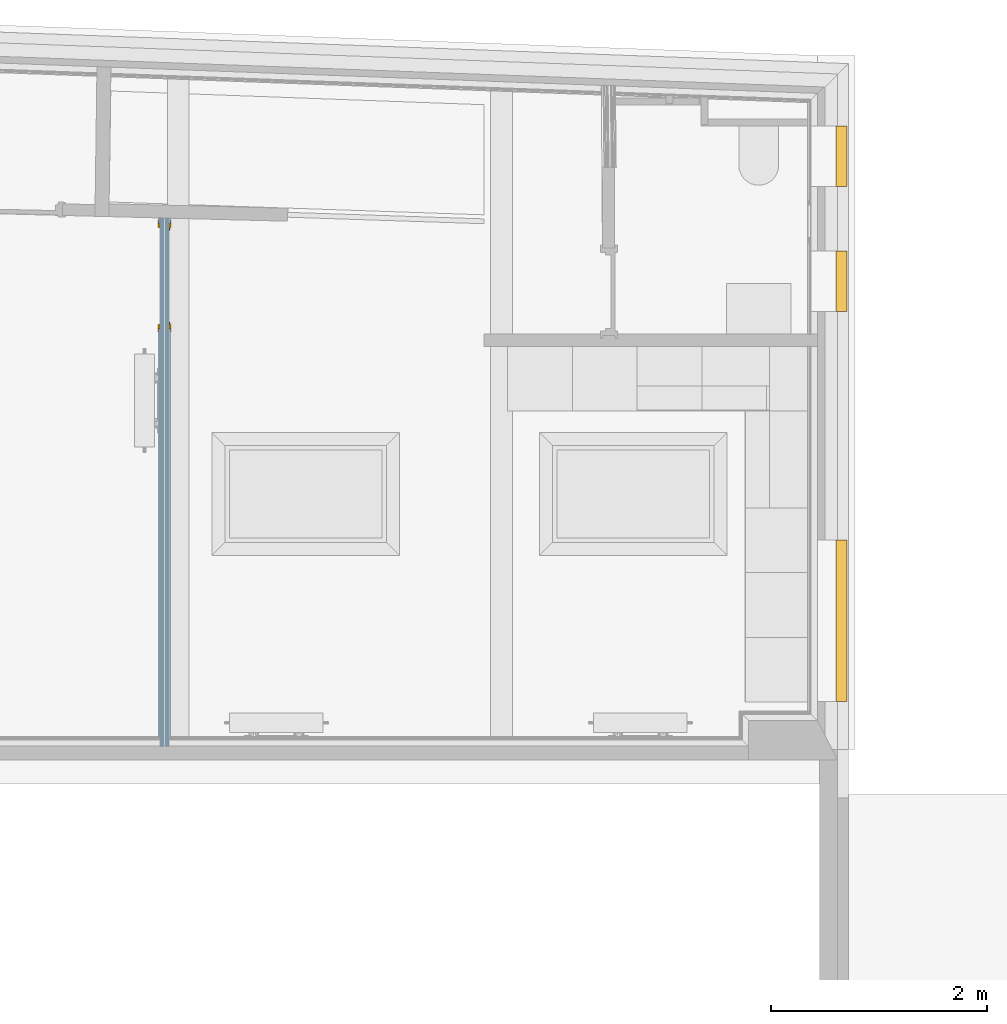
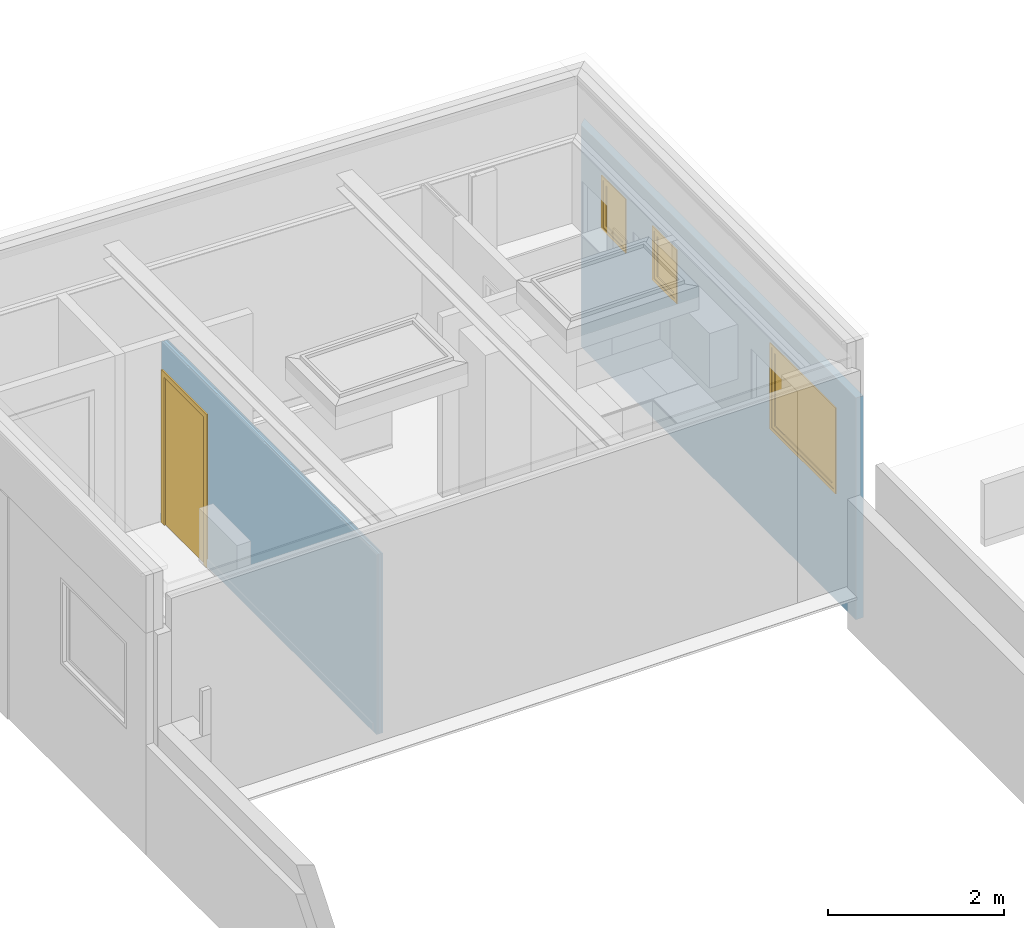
# One storey, part 10 of 22: 3 windows, 1 door, 4 openings, 1 element without a shape of its own, plus 8 elements that do not belong to this part.
"""IFC2X3 building model written with IfcOpenShell, lengths in metres."""

from ifc_helpers import new_model, entity, si_unit, converted_unit, derived_unit, money_unit, direction, frame, frame_2d, origin_with_axes, place, context, subcontext, project, spatial, polyline, rectangle, outline, extrude, faceted_brep, material, layer, layer_set, layer_usage, type_object, element, fill, aggregate, save


model = new_model("IFC2X3")

# Units and contexts
model_context = context("Model", 3, precision=1e-05, world=origin_with_axes(), true_north=direction((0.0, 1.0)))
body_context = subcontext(model_context, "Body", "Model", "MODEL_VIEW", scale=1.0)
ifc_project = project(units=[si_unit("LENGTHUNIT", "METRE"), si_unit("AREAUNIT", "SQUARE_METRE"), si_unit("VOLUMEUNIT", "CUBIC_METRE"), si_unit("ABSORBEDDOSEUNIT", "GRAY"), si_unit("AMOUNTOFSUBSTANCEUNIT", "MOLE"), si_unit("DOSEEQUIVALENTUNIT", "SIEVERT"), si_unit("ELECTRICCAPACITANCEUNIT", "FARAD"), si_unit("ELECTRICCHARGEUNIT", "COULOMB"), si_unit("ELECTRICCONDUCTANCEUNIT", "SIEMENS"), si_unit("ELECTRICCURRENTUNIT", "AMPERE"), si_unit("ELECTRICRESISTANCEUNIT", "OHM"), si_unit("ELECTRICVOLTAGEUNIT", "VOLT"), si_unit("ENERGYUNIT", "JOULE"), si_unit("FORCEUNIT", "NEWTON"), si_unit("FREQUENCYUNIT", "HERTZ"), si_unit("ILLUMINANCEUNIT", "LUX"), si_unit("INDUCTANCEUNIT", "HENRY"), si_unit("LUMINOUSFLUXUNIT", "LUMEN"), si_unit("LUMINOUSINTENSITYUNIT", "CANDELA"), si_unit("MAGNETICFLUXDENSITYUNIT", "TESLA"), si_unit("MAGNETICFLUXUNIT", "WEBER"), si_unit("MASSUNIT", "GRAM"), converted_unit("PLANEANGLEUNIT", "degree", entity("IfcReal", 0.0174532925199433), si_unit("PLANEANGLEUNIT", "RADIAN"), dimensions=[0, 0, 0, 0, 0, 0, 0]), si_unit("POWERUNIT", "WATT"), si_unit("PRESSUREUNIT", "PASCAL"), si_unit("RADIOACTIVITYUNIT", "BECQUEREL"), si_unit("SOLIDANGLEUNIT", "STERADIAN"), si_unit("THERMODYNAMICTEMPERATUREUNIT", "KELVIN"), si_unit("TIMEUNIT", "SECOND"), derived_unit("ACCELERATIONUNIT", [(si_unit("LENGTHUNIT", "METRE"), 1), (si_unit("TIMEUNIT", "SECOND"), -2)]), derived_unit("ANGULARVELOCITYUNIT", [(converted_unit("PLANEANGLEUNIT", "degree", entity("IfcReal", 0.0174532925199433), si_unit("PLANEANGLEUNIT", "RADIAN"), dimensions=[0, 0, 0, 0, 0, 0, 0]), 1), (si_unit("TIMEUNIT", "SECOND"), -1)]), derived_unit("CURVATUREUNIT", [(converted_unit("PLANEANGLEUNIT", "degree", entity("IfcReal", 0.0174532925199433), si_unit("PLANEANGLEUNIT", "RADIAN"), dimensions=[0, 0, 0, 0, 0, 0, 0]), 1), (si_unit("LENGTHUNIT", "METRE"), -1)]), derived_unit("DYNAMICVISCOSITYUNIT", [(si_unit("PRESSUREUNIT", "PASCAL"), 1), (si_unit("TIMEUNIT", "SECOND"), 1)]), derived_unit("HEATFLUXDENSITYUNIT", [(si_unit("POWERUNIT", "WATT"), 1), (si_unit("LENGTHUNIT", "METRE"), -2)]), derived_unit("HEATINGVALUEUNIT", [(si_unit("ENERGYUNIT", "JOULE"), 1), (si_unit("MASSUNIT", "GRAM"), -1)]), derived_unit("INTEGERCOUNTRATEUNIT", [(si_unit("TIMEUNIT", "SECOND"), -1)]), derived_unit("IONCONCENTRATIONUNIT", [(si_unit("MASSUNIT", "GRAM"), 1), (si_unit("VOLUMEUNIT", "CUBIC_METRE"), -1)]), derived_unit("ISOTHERMALMOISTURECAPACITYUNIT", [(si_unit("VOLUMEUNIT", "CUBIC_METRE"), 1), (si_unit("MASSUNIT", "GRAM"), -1)]), derived_unit("KINEMATICVISCOSITYUNIT", [(si_unit("AREAUNIT", "SQUARE_METRE"), 1), (si_unit("TIMEUNIT", "SECOND"), -1)]), derived_unit("LINEARFORCEUNIT", [(si_unit("FORCEUNIT", "NEWTON"), 1), (si_unit("LENGTHUNIT", "METRE"), -1)]), derived_unit("LINEARMOMENTUNIT", [(si_unit("FORCEUNIT", "NEWTON"), 1), (si_unit("LENGTHUNIT", "METRE"), -1)]), derived_unit("LINEARSTIFFNESSUNIT", [(si_unit("FORCEUNIT", "NEWTON"), 1), (si_unit("LENGTHUNIT", "METRE"), -1)]), derived_unit("LINEARVELOCITYUNIT", [(si_unit("LENGTHUNIT", "METRE"), 1), (si_unit("TIMEUNIT", "SECOND"), -1)]), derived_unit("LUMINOUSINTENSITYDISTRIBUTIONUNIT", [(si_unit("LUMINOUSINTENSITYUNIT", "CANDELA"), 1), (si_unit("LUMINOUSFLUXUNIT", "LUMEN"), -1)]), derived_unit("MASSDENSITYUNIT", [(si_unit("MASSUNIT", "GRAM"), 1), (si_unit("VOLUMEUNIT", "CUBIC_METRE"), -1)]), derived_unit("MASSFLOWRATEUNIT", [(si_unit("MASSUNIT", "GRAM"), 1), (si_unit("TIMEUNIT", "SECOND"), -1)]), derived_unit("MASSPERLENGTHUNIT", [(si_unit("MASSUNIT", "GRAM"), 1), (si_unit("LENGTHUNIT", "METRE"), -1)]), derived_unit("MODULUSOFELASTICITYUNIT", [(si_unit("FORCEUNIT", "NEWTON"), 1), (si_unit("AREAUNIT", "SQUARE_METRE"), -1)]), derived_unit("MODULUSOFLINEARSUBGRADEREACTIONUNIT", [(si_unit("FORCEUNIT", "NEWTON"), 1), (si_unit("LENGTHUNIT", "METRE"), -2)]), derived_unit("MODULUSOFROTATIONALSUBGRADEREACTIONUNIT", [(si_unit("FORCEUNIT", "NEWTON"), 1), (si_unit("LENGTHUNIT", "METRE"), 1)]), derived_unit("MODULUSOFSUBGRADEREACTIONUNIT", [(si_unit("FORCEUNIT", "NEWTON"), 1), (si_unit("VOLUMEUNIT", "CUBIC_METRE"), -1)]), derived_unit("MOISTUREDIFFUSIVITYUNIT", [(si_unit("VOLUMEUNIT", "CUBIC_METRE"), 1), (si_unit("TIMEUNIT", "SECOND"), -1)]), derived_unit("MOLECULARWEIGHTUNIT", [(si_unit("MASSUNIT", "GRAM"), 1), (si_unit("AMOUNTOFSUBSTANCEUNIT", "MOLE"), -1)]), derived_unit("PLANARFORCEUNIT", [(si_unit("FORCEUNIT", "NEWTON"), 1), (si_unit("LENGTHUNIT", "METRE"), -2)]), derived_unit("ROTATIONALFREQUENCYUNIT", [(si_unit("TIMEUNIT", "SECOND"), -1)]), derived_unit("ROTATIONALMASSUNIT", [(si_unit("MASSUNIT", "GRAM"), 1), (si_unit("LENGTHUNIT", "METRE"), 2)]), derived_unit("ROTATIONALSTIFFNESSUNIT", [(si_unit("FORCEUNIT", "NEWTON"), 1), (si_unit("LENGTHUNIT", "METRE"), 1), (converted_unit("PLANEANGLEUNIT", "degree", entity("IfcReal", 0.0174532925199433), si_unit("PLANEANGLEUNIT", "RADIAN"), dimensions=[0, 0, 0, 0, 0, 0, 0]), -1)]), derived_unit("SECTIONAREAINTEGRALUNIT", [(si_unit("LENGTHUNIT", "METRE"), 5)]), derived_unit("SECTIONMODULUSUNIT", [(si_unit("LENGTHUNIT", "METRE"), 3)]), derived_unit("SHEARMODULUSUNIT", [(si_unit("FORCEUNIT", "NEWTON"), 1), (si_unit("AREAUNIT", "SQUARE_METRE"), -1)]), derived_unit("SOUNDPOWERUNIT", [(si_unit("ENERGYUNIT", "JOULE"), 1), (si_unit("TIMEUNIT", "SECOND"), -1)]), derived_unit("SPECIFICHEATCAPACITYUNIT", [(si_unit("FORCEUNIT", "NEWTON"), 1), (si_unit("MASSUNIT", "GRAM"), -1), (si_unit("THERMODYNAMICTEMPERATUREUNIT", "KELVIN"), -1)]), derived_unit("TEMPERATUREGRADIENTUNIT", [(si_unit("THERMODYNAMICTEMPERATUREUNIT", "KELVIN"), 1), (si_unit("LENGTHUNIT", "METRE"), -1)]), derived_unit("THERMALADMITTANCEUNIT", [(si_unit("POWERUNIT", "WATT"), 1), (si_unit("AREAUNIT", "SQUARE_METRE"), -1), (si_unit("THERMODYNAMICTEMPERATUREUNIT", "KELVIN"), -1)]), derived_unit("THERMALCONDUCTANCEUNIT", [(si_unit("POWERUNIT", "WATT"), 1), (si_unit("LENGTHUNIT", "METRE"), -1), (si_unit("THERMODYNAMICTEMPERATUREUNIT", "KELVIN"), -1)]), derived_unit("THERMALEXPANSIONCOEFFICIENTUNIT", [(si_unit("THERMODYNAMICTEMPERATUREUNIT", "KELVIN"), -1)]), derived_unit("THERMALRESISTANCEUNIT", [(si_unit("AREAUNIT", "SQUARE_METRE"), 1), (si_unit("POWERUNIT", "WATT"), -1)]), derived_unit("THERMALTRANSMITTANCEUNIT", [(si_unit("POWERUNIT", "WATT"), 1), (si_unit("AREAUNIT", "SQUARE_METRE"), -1), (si_unit("THERMODYNAMICTEMPERATUREUNIT", "KELVIN"), -1)]), derived_unit("TORQUEUNIT", [(si_unit("FORCEUNIT", "NEWTON"), 1), (si_unit("LENGTHUNIT", "METRE"), 1)]), derived_unit("VAPORPERMEABILITYUNIT", [(si_unit("MASSUNIT", "GRAM"), 1), (si_unit("TIMEUNIT", "SECOND"), -1)]), derived_unit("VOLUMETRICFLOWRATEUNIT", [(si_unit("VOLUMEUNIT", "CUBIC_METRE"), 1), (si_unit("TIMEUNIT", "SECOND"), -1)]), derived_unit("WARPINGCONSTANTUNIT", [(si_unit("LENGTHUNIT", "METRE"), 6)]), derived_unit("WARPINGMOMENTUNIT", [(si_unit("FORCEUNIT", "NEWTON"), 1), (si_unit("LENGTHUNIT", "METRE"), 2)]), money_unit("GBP")], contexts=[model_context])

# Site, building, storey
site_placement = place(None, origin_with_axes())
site = spatial("IfcSite", under=ifc_project, at=site_placement, Name="Site", CompositionType="ELEMENT")
building_placement = place(site_placement, origin_with_axes())
building = spatial("IfcBuilding", under=site, at=building_placement, Name="Building01", CompositionType="ELEMENT")
storey_placement = place(building_placement, frame((0.0, 0.0, 2.6), z_axis=(0.0, 0.0, 1.0), x_axis=(1.0, 0.0, 0.0)))
storey = spatial("IfcBuildingStorey", under=building, at=storey_placement, Name="MF", CompositionType="ELEMENT", Elevation=2.6)

# Wall, openings
ifc_material_1 = material(Name="A_BSUK_WallsExternal_Brick")
ifc_layer = layer(ifc_material_1, 0.1, ventilated=False)
ifc_layer_set = layer_set([ifc_layer])
ifc_layer_usage = layer_usage(ifc_layer_set, "AXIS2", "POSITIVE", 0.0)
wall_type_1 = type_object("IfcWallType", Name="A-Walls-ExternalBrick", PredefinedType="NOTDEFINED")
wall_1_placement = place(storey_placement, frame((9.343038, 21.166066, 0.0), z_axis=(0.0, 0.0, 1.0), x_axis=(0.0, -1.0, 0.0)))
wall_1 = element("IfcWallStandardCase", 1, at=wall_1_placement, inside=storey, type_object=wall_type_1, material=ifc_layer_usage, Name="A-Walls-ExternalBrick", ObjectType="A-Walls-ExternalBrick", context=body_context, shape_type="SweptSolid", body=[
    extrude(outline(polyline([(6.265024, 0.1), (-0.096359, 0.1), (0.0, 0.0), (6.265024, 0.0), (6.265024, 0.1)])), origin_with_axes(), (0.0, 0.0, 1.0), 3.085),
])
opening_1_placement = place(wall_1_placement, frame((4.323276, 0.0, 1.485), z_axis=(0.0, 0.0, 1.0), x_axis=(1.0, 0.0, 0.0)))
opening_1 = element("IfcOpeningElement", 2, at=opening_1_placement, cuts=wall_1, Name="Opening", ObjectType="Opening", context=body_context, shape_type="SweptSolid", body=[
    extrude(rectangle(XDim=1.2, YDim=1.5, at=frame_2d((-0.75, 0.6), x_axis=(0.0, -1.0))), frame((0.0, 0.0, 0.0), z_axis=(0.0, 1.0, 0.0), x_axis=(-1.0, 0.0, 0.0)), (0.0, 0.0, 1.0), 0.1),
])
opening_2_placement = place(wall_1_placement, frame((1.643772, 0.0, 1.935), z_axis=(0.0, 0.0, 1.0), x_axis=(1.0, 0.0, 0.0)))
opening_2 = element("IfcOpeningElement", 3, at=opening_2_placement, cuts=wall_1, Name="Opening", ObjectType="Opening", context=body_context, shape_type="SweptSolid", body=[
    extrude(rectangle(XDim=0.75, YDim=0.56, at=frame_2d((-0.28, 0.375), x_axis=(0.0, -1.0))), frame((0.0, 0.0, 0.0), z_axis=(0.0, 1.0, 0.0), x_axis=(-1.0, 0.0, 0.0)), (0.0, 0.0, 1.0), 0.1),
])
opening_3_placement = place(wall_1_placement, frame((0.482163, 0.0, 1.935), z_axis=(0.0, 0.0, 1.0), x_axis=(1.0, 0.0, 0.0)))
opening_3 = element("IfcOpeningElement", 4, at=opening_3_placement, cuts=wall_1, Name="Opening", ObjectType="Opening", context=body_context, shape_type="SweptSolid", body=[
    extrude(rectangle(XDim=0.75, YDim=0.56, at=frame_2d((-0.28, 0.375), x_axis=(0.0, -1.0))), frame((0.0, 0.0, 0.0), z_axis=(0.0, 1.0, 0.0), x_axis=(-1.0, 0.0, 0.0)), (0.0, 0.0, 1.0), 0.1),
])

# Space
space_placement = place(storey_placement, frame((0.352897, 21.240404, 0.585), z_axis=(0.0, 0.0, 1.0), x_axis=(-1.921e-05, -1.0, 0.0)))
space = spatial("IfcSpace", under=storey, at=space_placement, Name="01", CompositionType="ELEMENT", InteriorOrExteriorSpace="NOTDEFINED")

# Window
ifc_material_2 = material(Name="A_BSUK_Windows")
window_style = type_object("IfcWindowStyle", Name="A-Awning", ConstructionType="NOTDEFINED", OperationType="USERDEFINED", ParameterTakesPrecedence=False, Sizeable=False)
window_1_placement = place(opening_1_placement, frame((1.5, -0.038773, 0.0), z_axis=(0.0, 0.0, 1.0), x_axis=(1.0, 0.0, 0.0)))
window_1 = element("IfcWindow", 5, at=window_1_placement, inside=space, type_object=window_style, material=ifc_material_2, Name="0.21", ObjectType="A-Awning", OverallHeight=1.2, OverallWidth=1.5, context=body_context, shape_type="Brep", body=[
    faceted_brep([(-1.458, 0.0254, 0.042), (-0.042, 0.0254, 0.042), (-0.042, 0.1254, 0.042), (-1.458, 0.1254, 0.042), (-1.458, 0.0254, 1.158), (-1.458, 0.1254, 1.158), (-0.042, 0.0254, 1.158), (-0.042, 0.1254, 1.158), (0.0, 0.0254, 0.0), (0.0, 0.0254, 1.2), (-1.5, 0.0254, 1.2), (-1.5, 0.0254, 0.0), (0.0, 0.1254, 1.2), (-1.5, 0.1254, 1.2), (-1.5, 0.1254, 0.0), (0.0, 0.1254, 0.0)], [[[0, 1, 2, 3]], [[4, 0, 3, 5]], [[6, 4, 5, 7]], [[8, 9, 10, 11], [4, 6, 1, 0]], [[1, 6, 7, 2]], [[12, 13, 10, 9]], [[14, 15, 8, 11]], [[13, 14, 11, 10]], [[13, 12, 15, 14], [2, 7, 5, 3]], [[15, 12, 9, 8]]]),
    faceted_brep([(-1.4072, 0.0354, 0.0928), (-0.0928, 0.0354, 0.0928), (-0.0928, 0.0704, 0.0928), (-1.4072, 0.0704, 0.0928), (-1.4072, 0.0354, 1.1072), (-1.4072, 0.0704, 1.1072), (-0.0928, 0.0354, 1.1072), (-0.0928, 0.0704, 1.1072), (-1.458, 0.0704, 1.158), (-0.042, 0.0704, 1.158), (-0.042, 0.0704, 0.042), (-1.458, 0.0704, 0.042), (-1.458, 0.0354, 1.158), (-0.042, 0.0354, 1.158), (-0.042, 0.0354, 0.042), (-1.458, 0.0354, 0.042)], [[[0, 1, 2, 3]], [[4, 0, 3, 5]], [[6, 4, 5, 7]], [[8, 9, 10, 11], [2, 7, 5, 3]], [[9, 8, 12, 13]], [[10, 9, 13, 14]], [[11, 10, 14, 15]], [[8, 11, 15, 12]], [[14, 13, 12, 15], [4, 6, 1, 0]], [[1, 6, 7, 2]]]),
    faceted_brep([(-0.0928, 0.049725, 0.0928), (-0.0928, 0.056075, 0.0928), (-0.0928, 0.056075, 1.1072), (-0.0928, 0.049725, 1.1072), (-1.4072, 0.049725, 1.1072), (-1.4072, 0.056075, 1.1072), (-1.4072, 0.056075, 0.0928), (-1.4072, 0.049725, 0.0928)], [[[0, 1, 2, 3]], [[4, 5, 6, 7]], [[3, 2, 5, 4]], [[3, 4, 7, 0]], [[7, 6, 1, 0]], [[1, 6, 5, 2]]]),
])

fill(opening_1, window_1)

window_2_placement = place(opening_2_placement, frame((0.56, -0.038773, 0.0), z_axis=(0.0, 0.0, 1.0), x_axis=(1.0, 0.0, 0.0)))
window_2 = element("IfcWindow", 6, at=window_2_placement, inside=space, type_object=window_style, material=ifc_material_2, Name="0.22", ObjectType="A-Awning", OverallHeight=0.750000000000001, OverallWidth=0.56, context=body_context, shape_type="Brep", body=[
    faceted_brep([(-0.518, 0.0254, 0.042), (-0.042, 0.0254, 0.042), (-0.042, 0.1254, 0.042), (-0.518, 0.1254, 0.042), (-0.518, 0.0254, 0.708), (-0.518, 0.1254, 0.708), (-0.042, 0.0254, 0.708), (-0.042, 0.1254, 0.708), (0.0, 0.0254, 0.0), (0.0, 0.0254, 0.75), (-0.56, 0.0254, 0.75), (-0.56, 0.0254, 0.0), (0.0, 0.1254, 0.75), (-0.56, 0.1254, 0.75), (-0.56, 0.1254, 0.0), (0.0, 0.1254, 0.0)], [[[0, 1, 2, 3]], [[4, 0, 3, 5]], [[6, 4, 5, 7]], [[8, 9, 10, 11], [4, 6, 1, 0]], [[1, 6, 7, 2]], [[12, 13, 10, 9]], [[14, 15, 8, 11]], [[13, 14, 11, 10]], [[13, 12, 15, 14], [2, 7, 5, 3]], [[15, 12, 9, 8]]]),
    faceted_brep([(-0.4672, 0.0354, 0.0928), (-0.0928, 0.0354, 0.0928), (-0.0928, 0.0704, 0.0928), (-0.4672, 0.0704, 0.0928), (-0.4672, 0.0354, 0.6572), (-0.4672, 0.0704, 0.6572), (-0.0928, 0.0354, 0.6572), (-0.0928, 0.0704, 0.6572), (-0.518, 0.0704, 0.708), (-0.042, 0.0704, 0.708), (-0.042, 0.0704, 0.042), (-0.518, 0.0704, 0.042), (-0.518, 0.0354, 0.708), (-0.042, 0.0354, 0.708), (-0.042, 0.0354, 0.042), (-0.518, 0.0354, 0.042)], [[[0, 1, 2, 3]], [[4, 0, 3, 5]], [[6, 4, 5, 7]], [[8, 9, 10, 11], [2, 7, 5, 3]], [[9, 8, 12, 13]], [[10, 9, 13, 14]], [[11, 10, 14, 15]], [[8, 11, 15, 12]], [[14, 13, 12, 15], [4, 6, 1, 0]], [[1, 6, 7, 2]]]),
    faceted_brep([(-0.0928, 0.049725, 0.0928), (-0.0928, 0.056075, 0.0928), (-0.0928, 0.056075, 0.6572), (-0.0928, 0.049725, 0.6572), (-0.4672, 0.049725, 0.6572), (-0.4672, 0.056075, 0.6572), (-0.4672, 0.056075, 0.0928), (-0.4672, 0.049725, 0.0928)], [[[0, 1, 2, 3]], [[4, 5, 6, 7]], [[3, 2, 5, 4]], [[3, 4, 7, 0]], [[7, 6, 1, 0]], [[1, 6, 5, 2]]]),
])

fill(opening_2, window_2)

window_3_placement = place(opening_3_placement, frame((0.56, -0.038773, 0.0), z_axis=(0.0, 0.0, 1.0), x_axis=(1.0, 0.0, 0.0)))
window_3 = element("IfcWindow", 7, at=window_3_placement, inside=space, type_object=window_style, material=ifc_material_2, Name="0.23", ObjectType="A-Awning", OverallHeight=0.750000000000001, OverallWidth=0.56, context=body_context, shape_type="Brep", body=[
    faceted_brep([(-0.518, 0.0254, 0.042), (-0.042, 0.0254, 0.042), (-0.042, 0.1254, 0.042), (-0.518, 0.1254, 0.042), (-0.518, 0.0254, 0.708), (-0.518, 0.1254, 0.708), (-0.042, 0.0254, 0.708), (-0.042, 0.1254, 0.708), (0.0, 0.0254, 0.0), (0.0, 0.0254, 0.75), (-0.56, 0.0254, 0.75), (-0.56, 0.0254, 0.0), (0.0, 0.1254, 0.75), (-0.56, 0.1254, 0.75), (-0.56, 0.1254, 0.0), (0.0, 0.1254, 0.0)], [[[0, 1, 2, 3]], [[4, 0, 3, 5]], [[6, 4, 5, 7]], [[8, 9, 10, 11], [4, 6, 1, 0]], [[1, 6, 7, 2]], [[12, 13, 10, 9]], [[14, 15, 8, 11]], [[13, 14, 11, 10]], [[13, 12, 15, 14], [2, 7, 5, 3]], [[15, 12, 9, 8]]]),
    faceted_brep([(-0.4672, 0.0354, 0.0928), (-0.0928, 0.0354, 0.0928), (-0.0928, 0.0704, 0.0928), (-0.4672, 0.0704, 0.0928), (-0.4672, 0.0354, 0.6572), (-0.4672, 0.0704, 0.6572), (-0.0928, 0.0354, 0.6572), (-0.0928, 0.0704, 0.6572), (-0.518, 0.0704, 0.708), (-0.042, 0.0704, 0.708), (-0.042, 0.0704, 0.042), (-0.518, 0.0704, 0.042), (-0.518, 0.0354, 0.708), (-0.042, 0.0354, 0.708), (-0.042, 0.0354, 0.042), (-0.518, 0.0354, 0.042)], [[[0, 1, 2, 3]], [[4, 0, 3, 5]], [[6, 4, 5, 7]], [[8, 9, 10, 11], [2, 7, 5, 3]], [[9, 8, 12, 13]], [[10, 9, 13, 14]], [[11, 10, 14, 15]], [[8, 11, 15, 12]], [[14, 13, 12, 15], [4, 6, 1, 0]], [[1, 6, 7, 2]]]),
    faceted_brep([(-0.0928, 0.049725, 0.0928), (-0.0928, 0.056075, 0.0928), (-0.0928, 0.056075, 0.6572), (-0.0928, 0.049725, 0.6572), (-0.4672, 0.049725, 0.6572), (-0.4672, 0.056075, 0.6572), (-0.4672, 0.056075, 0.0928), (-0.4672, 0.049725, 0.0928)], [[[0, 1, 2, 3]], [[4, 5, 6, 7]], [[3, 2, 5, 4]], [[3, 4, 7, 0]], [[7, 6, 1, 0]], [[1, 6, 5, 2]]]),
])

fill(opening_3, window_3)

# Door
ifc_material_3 = material(Name="A_BSUK_Doors")
door_style = type_object("IfcDoorStyle", Name="A-Doors-SingleFlush", ConstructionType="USERDEFINED", OperationType="SINGLE_SWING_RIGHT", ParameterTakesPrecedence=False, Sizeable=False)
wall_2_placement = place(storey_placement, frame((3.110414, 14.93, 0.585), z_axis=(0.0, 0.0, 1.0), x_axis=(0.0, 1.0, 0.0)))
opening_4_placement = place(wall_2_placement, frame((3.868347, -0.042, 0.0), z_axis=(0.0, 0.0, 1.0), x_axis=(1.0, 0.0, 0.0)))
door_placement = place(opening_4_placement, frame((0.042, 0.095, 0.0), z_axis=(0.0, 0.0, 1.0), x_axis=(1.0, 0.0, 0.0)))
door = element("IfcDoor", 8, at=door_placement, inside=space, type_object=door_style, material=ifc_material_3, Name="0.22", ObjectType="A-Doors-SingleFlush", OverallHeight=2.10000000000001, OverallWidth=0.984000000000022, context=body_context, shape_type="Brep", body=[
    faceted_brep([(0.9, -0.099, 0.0), (0.969, -0.099, 0.0), (0.969, -0.099, 2.127), (-0.069, -0.099, 2.127), (-0.069, -0.099, 0.0), (0.0, -0.099, 0.0), (0.0, -0.099, 2.058), (0.9, -0.099, 2.058), (-0.069, -0.08, 0.0), (-0.069, -0.08, 2.127), (0.969, -0.08, 2.127), (0.969, -0.08, 0.0), (0.9, 0.019, 0.0), (0.969, 0.019, 0.0), (0.969, 0.0, 0.0), (0.942, 0.0, 0.0), (0.942, -0.08, 0.0), (0.9, 0.019, 2.058), (0.0, 0.019, 2.058), (0.0, 0.019, 0.0), (-0.069, 0.019, 0.0), (-0.069, 0.019, 2.127), (0.969, 0.019, 2.127), (0.969, 0.0, 2.127), (0.942, -0.08, 2.1), (0.942, 0.0, 2.1), (-0.042, -0.08, 2.1), (-0.042, 0.0, 2.1), (-0.042, -0.08, 0.0), (-0.042, 0.0, 0.0), (-0.069, 0.0, 2.127), (-0.069, 0.0, 0.0)], [[[0, 1, 2, 3, 4, 5, 6, 7]], [[8, 4, 3, 9]], [[10, 2, 1, 11]], [[9, 3, 2, 10]], [[12, 13, 14, 15, 16, 11, 1, 0]], [[7, 17, 12, 0]], [[6, 18, 17, 7]], [[18, 19, 20, 21, 22, 13, 12, 17]], [[5, 19, 18, 6]], [[13, 22, 23, 14]], [[24, 16, 15, 25]], [[26, 24, 25, 27]], [[11, 16, 24, 26, 28, 8, 9, 10]], [[27, 29, 28, 26]], [[25, 15, 14, 23, 30, 31, 29, 27]], [[5, 4, 8, 28, 29, 31, 20, 19]], [[30, 21, 20, 31]], [[23, 22, 21, 30]]]),
    faceted_brep([(0.0, -0.09, 2.058), (0.0, -0.04, 2.058), (0.0, -0.04, 0.0), (0.0, -0.09, 0.0), (0.875, -0.09, 0.0), (0.9, -0.09, 0.0), (0.9, -0.09, 2.058), (0.025, -0.09, 0.0), (0.025, -0.09, 2.033), (0.875, -0.09, 2.033), (0.875, -0.04, 0.0), (0.9, -0.04, 0.0), (0.9, -0.04, 2.058), (0.025, -0.04, 2.033), (0.025, -0.04, 0.0), (0.875, -0.04, 2.033)], [[[0, 1, 2, 3]], [[4, 5, 6, 0, 3, 7, 8, 9]], [[10, 11, 5, 4]], [[6, 12, 1, 0]], [[5, 11, 12, 6]], [[13, 14, 2, 1, 12, 11, 10, 15]], [[7, 14, 13, 8]], [[7, 3, 2, 14]], [[9, 15, 10, 4]], [[8, 13, 15, 9]]]),
    faceted_brep([(0.9, -0.04, 0.0), (0.9, 0.0, 0.0), (0.9, 0.0, 2.058), (0.9, -0.04, 2.058), (0.0, -0.04, 2.058), (0.0, 0.0, 2.058), (0.0, 0.0, 0.0), (0.0, -0.04, 0.0)], [[[0, 1, 2, 3]], [[4, 5, 6, 7]], [[7, 6, 1, 0]], [[3, 4, 7, 0]], [[3, 2, 5, 4]], [[1, 6, 5, 2]]]),
])

# Wall, opening
wall_type_2 = type_object("IfcWallType", Name="SHE_A-Walls_Type05b_Partition_80mm", PredefinedType="NOTDEFINED")
wall_2 = element("IfcWall", 9, at=wall_2_placement, inside=storey, type_object=wall_type_2, Name="5B", ObjectType="SHE_A-Walls_Type05b_Partition_80mm")
opening_4 = element("IfcOpeningElement", 10, at=opening_4_placement, cuts=wall_2, Name="Opening", ObjectType="Opening", context=body_context, shape_type="SweptSolid", body=[
    extrude(rectangle(XDim=2.1, YDim=0.984, at=frame_2d((-0.492, 1.05), x_axis=(0.0, 1.0))), frame((0.0, 0.0, 0.0), z_axis=(0.0, 1.0, 0.0), x_axis=(-1.0, 0.0, 0.0)), (0.0, 0.0, 1.0), 0.11),
])

fill(opening_4, door)

# Building element part
ifc_material_4 = material(Name="A_BSUK_Walls_Timber")
placement = place(wall_2_placement, origin_with_axes())
building_element_part_1 = element("IfcBuildingElementPart", 11, at=placement, material=ifc_material_4, Name="1", context=body_context, shape_type="SweptSolid", body=[
    extrude(outline(polyline([(4.898341, -0.027), (0.072, -0.027), (0.072, -0.042), (4.897956, -0.042), (4.898341, -0.027)])), frame((0.0, 0.0, 0.015), z_axis=(0.0, 0.0, 1.0), x_axis=(1.0, 0.0, 0.0)), (0.0, 0.0, 1.0), 0.1),
])

ifc_material_5 = material(Name="A_BSUK_WallInternal_Finishes_Plasterboard")
building_element_part_2 = element("IfcBuildingElementPart", 12, at=placement, material=ifc_material_5, Name="2", context=body_context, shape_type="SweptSolid", body=[
    extrude(outline(polyline([(4.898725, -0.012), (0.0, -0.012), (0.0, -0.027), (4.898341, -0.027), (4.898725, -0.012)])), origin_with_axes(), (0.0, 0.0, 1.0), 2.5),
])

ifc_material_6 = material(Name="Air Cavity")
building_element_part_3 = element("IfcBuildingElementPart", 13, at=placement, material=ifc_material_6, Name="3", context=body_context, shape_type="SweptSolid", body=[
    extrude(outline(polyline([(4.899033, 0.0), (0.0, 0.0), (0.0, -0.012), (4.898725, -0.012), (4.899033, 0.0)])), origin_with_axes(), (0.0, 0.0, 1.0), 2.5),
])

ifc_material_7 = material(Name="A_BSUK_Insulation")
building_element_part_4 = element("IfcBuildingElementPart", 14, at=placement, material=ifc_material_7, Name="4", context=body_context, shape_type="SweptSolid", body=[
    extrude(outline(polyline([(4.899674, 0.025), (0.0, 0.025), (0.0, 0.0), (4.899033, 0.0), (4.899674, 0.025)])), origin_with_axes(), (0.0, 0.0, 1.0), 2.5),
])

building_element_part_5 = element("IfcBuildingElementPart", 15, at=placement, material=ifc_material_6, Name="5", context=body_context, shape_type="SweptSolid", body=[
    extrude(outline(polyline([(4.900007, 0.038), (0.0, 0.038), (0.0, 0.025), (4.899674, 0.025), (4.900007, 0.038)])), origin_with_axes(), (0.0, 0.0, 1.0), 2.5),
])

building_element_part_6 = element("IfcBuildingElementPart", 16, at=placement, material=ifc_material_5, Name="6", context=body_context, shape_type="SweptSolid", body=[
    extrude(outline(polyline([(4.900392, 0.053), (0.0, 0.053), (0.0, 0.038), (4.900007, 0.038), (4.900392, 0.053)])), origin_with_axes(), (0.0, 0.0, 1.0), 2.5),
])

building_element_part_7 = element("IfcBuildingElementPart", 17, at=placement, material=ifc_material_4, Name="7", context=body_context, shape_type="SweptSolid", body=[
    extrude(outline(polyline([(4.900776, 0.068), (0.072, 0.068), (0.072, 0.053), (4.900392, 0.053), (4.900776, 0.068)])), frame((0.0, 0.0, 0.015), z_axis=(0.0, 0.0, 1.0), x_axis=(1.0, 0.0, 0.0)), (0.0, 0.0, 1.0), 0.1),
])

aggregate(wall_2, [building_element_part_1, building_element_part_2, building_element_part_3, building_element_part_4, building_element_part_5, building_element_part_6, building_element_part_7])

save(model, "model.ifc")
